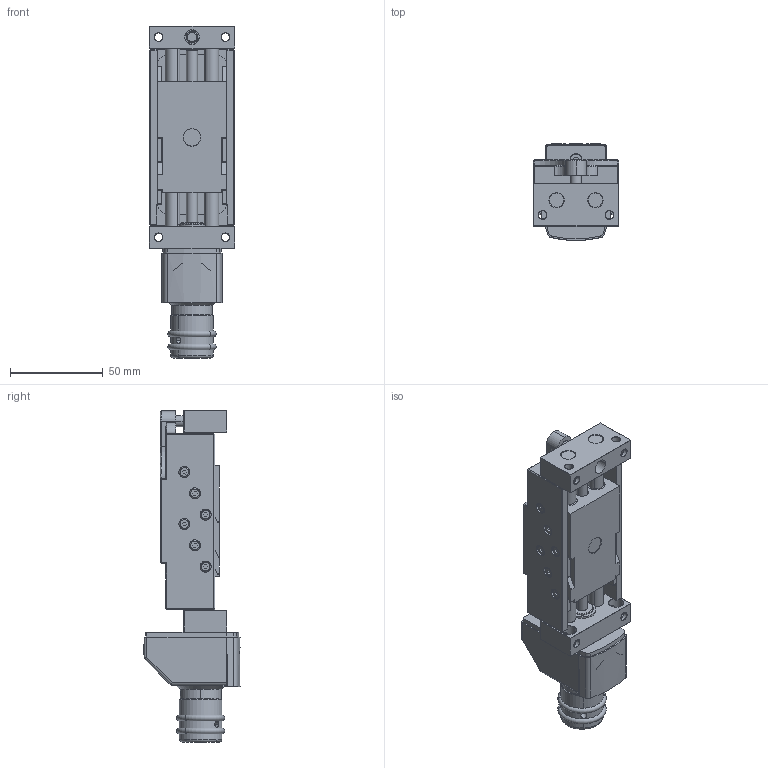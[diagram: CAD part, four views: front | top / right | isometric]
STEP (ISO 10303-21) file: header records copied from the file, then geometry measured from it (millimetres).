
FILE_DESCRIPTION (( 'STEP AP203' ), '1' );
FILE_NAME ('HT08-PAE-Hubtisch.STEP', '2016-01-15T16:34:08', ( '' ), ( '' ), 'SwSTEP 2.0', 'SolidWorks 2014', '' );
FILE_SCHEMA (( 'CONFIG_CONTROL_DESIGN' ));
Length unit declared in the file: millimetre
Products named in the file (5): HT08-PAE-Hubtisch; HT08-000-01-Festteil-PA(E); HT08-000-02-Schlitten-komplett; HT08-000-03-Hubplatte-komplett; PAE0812-DT-000-Elektronischer-Positionsanzeiger-Komplett_n_Standard
Assembly tree (4 placements, depth 2):
  HT08-PAE-Hubtisch
    HT08-000-01-Festteil-PA(E)
    HT08-000-02-Schlitten-komplett
    HT08-000-03-Hubplatte-komplett
    PAE0812-DT-000-Elektronischer-Positionsanzeiger-Komplett_n_Standard
Bounding box: 46 x 51.97 x 179.13 mm (x, y, z)
Volume: 168498.2 mm3; surface area: 70132.4 mm2
Topology: 4 solids, 21 shells, 1439 faces, 3479 edges, 2227 vertices
Faces by surface type: plane 716, cylinder 487, cone 202, torus 30, sphere 4
Entity records: 43485 total; most frequent: CARTESIAN_POINT 8257, DIRECTION 7568, ORIENTED_EDGE 6910, EDGE_CURVE 3455, AXIS2_PLACEMENT_3D 2766, VERTEX_POINT 2227, LINE 2036, VECTOR 2036
